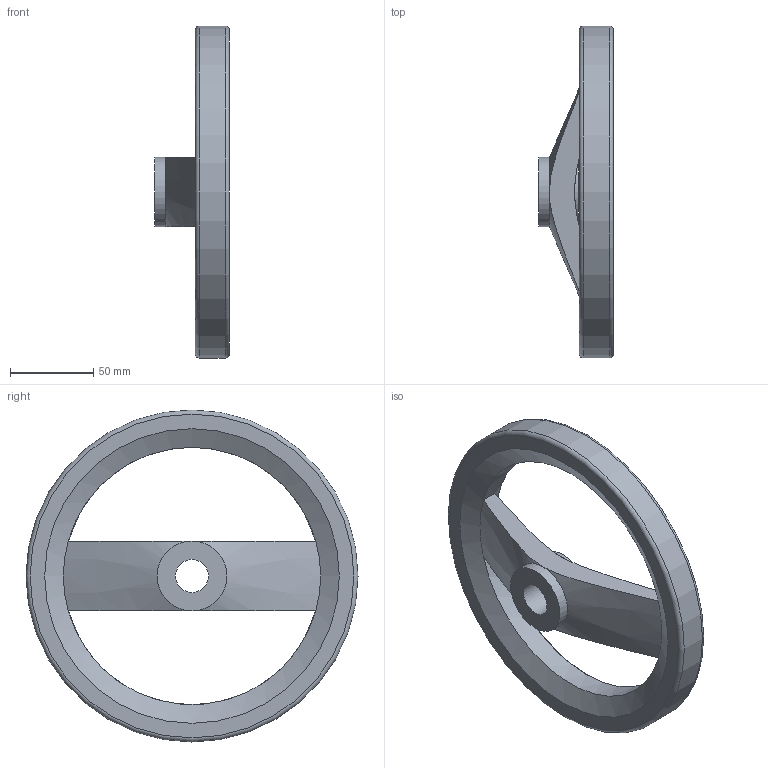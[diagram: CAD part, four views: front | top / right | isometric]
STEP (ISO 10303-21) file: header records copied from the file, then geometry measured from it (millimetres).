
FILE_DESCRIPTION( ( 'STEP AP203' ), '1' );
FILE_NAME( 'C:/Temp/Ganter_Step_05_03_2020/data/1_3/gn_324/gn_324_b/gn_324_b_a/Handwheel, matt black GN 324-200-B20-A.stp', '2020-03-05T10:32:54', ( 'License CC BY-ND 4.0' ), ( 'CADENAS' ), ' ', 'PARTsolutions', ' ' );
FILE_SCHEMA( ( 'CONFIG_CONTROL_DESIGN' ) );
Length unit declared in the file: millimetre
Products named in the file (1): _Handwheel, matt black GN 324-200-B20-A
Bounding box: 45 x 200 x 200 mm (x, y, z)
Volume: 326705.7 mm3; surface area: 62805.4 mm2
Topology: 1 solids, 1 shells, 19 faces, 43 edges, 24 vertices
Faces by surface type: plane 6, cone 6, cylinder 5, torus 2
Full cylindrical faces by diameter (mm): 20 x1, 42 x2, 155 x1, 200 x1
Entity records: 668 total; most frequent: CARTESIAN_POINT 232, DIRECTION 86, ORIENTED_EDGE 66, AXIS2_PLACEMENT_3D 41, EDGE_CURVE 33, EDGE_LOOP 32, FACE_OUTER_BOUND 26, VERTEX_POINT 23
